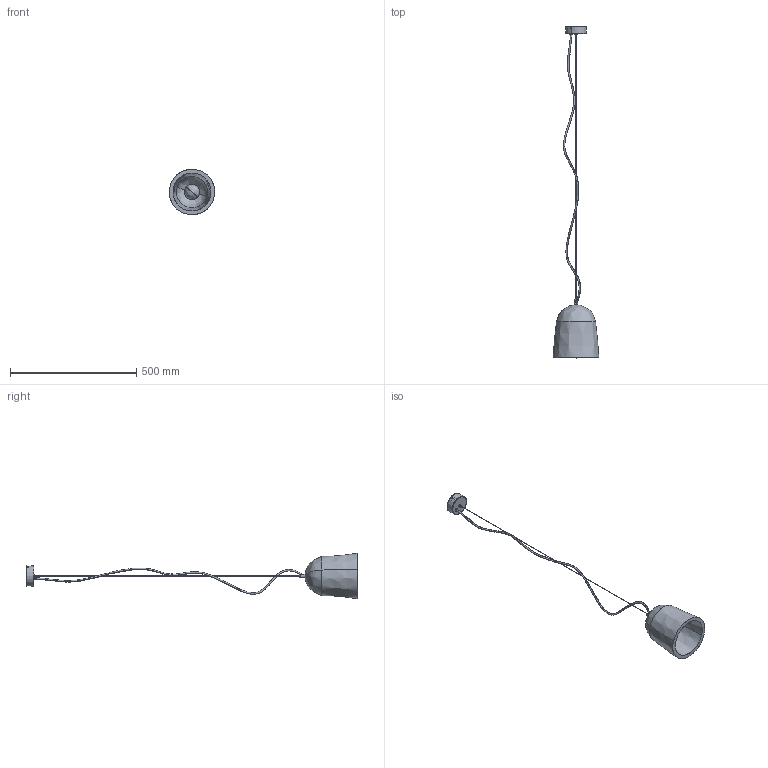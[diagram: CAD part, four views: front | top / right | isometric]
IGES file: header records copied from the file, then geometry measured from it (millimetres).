
Start section: SolidWorks IGES file using analytic representation for surfaces
Global section: file name: E:\3D lampy\Gypsum\Gypsum_6856.IGS; native system: SolidWorks 2016; preprocessor: SolidWorks 2016; author: Asia; date: 171004.101752; units: millimetre
Bounding box: 180.55 x 1315.54 x 180.57 mm (x, y, z)
Surface area: 306400.5 mm2 (no closed solid volume)
Topology: 0 solids, 0 shells, 591 faces, 7775 edges, 7750 vertices
Faces by surface type: bspline 328, revolution 263
